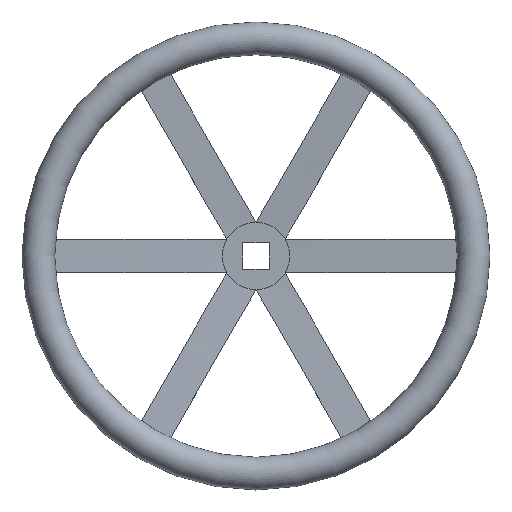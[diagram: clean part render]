
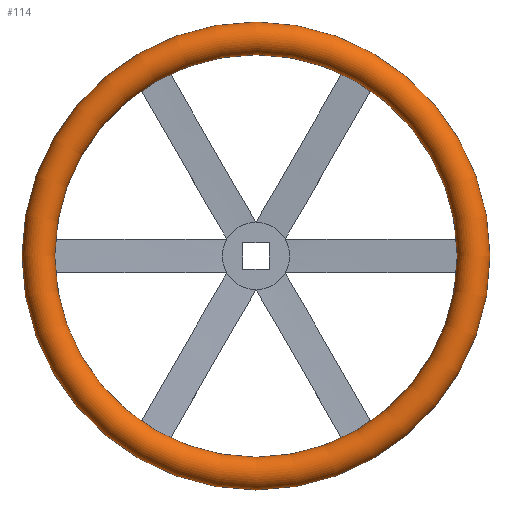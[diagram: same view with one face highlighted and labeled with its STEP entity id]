
A CAD part, top view. The second image highlights one B-rep face of the part: STEP entity #114.
In plain terms, the highlighted toroidal (fillet/blend) face has major radius 226 mm and minor radius 17 mm.
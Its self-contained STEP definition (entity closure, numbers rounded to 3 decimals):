
#114 = ADVANCED_FACE( '', ( #205, #206 ), #207, .T. );
#205 = FACE_OUTER_BOUND( '', #297, .T. );
#206 = FACE_OUTER_BOUND( '', #298, .T. );
#207 = TOROIDAL_SURFACE( '', #299, 226., 17. );
#297 = EDGE_LOOP( '', ( #601 ) );
#298 = EDGE_LOOP( '', ( #602 ) );
#299 = AXIS2_PLACEMENT_3D( '', #603, #604, #605 );
#601 = ORIENTED_EDGE( '', *, *, #698, .T. );
#602 = ORIENTED_EDGE( '', *, *, #663, .F. );
#603 = CARTESIAN_POINT( '', ( 0., 0., 38. ) );
#604 = DIRECTION( '', ( 0., 0., 1. ) );
#605 = DIRECTION( '', ( 1., 0., 0. ) );
#663 = EDGE_CURVE( '', #797, #797, #798, .T. );
#698 = EDGE_CURVE( '', #843, #843, #844, .T. );
#797 = VERTEX_POINT( '', #1091 );
#798 = CIRCLE( '', #1092, 209. );
#843 = VERTEX_POINT( '', #1235 );
#844 = CIRCLE( '', #1236, 243. );
#1091 = CARTESIAN_POINT( '', ( 209., 0., 38. ) );
#1092 = AXIS2_PLACEMENT_3D( '', #1322, #1323, #1324 );
#1235 = CARTESIAN_POINT( '', ( 243., 0., 38. ) );
#1236 = AXIS2_PLACEMENT_3D( '', #1381, #1382, #1383 );
#1322 = CARTESIAN_POINT( '', ( 0., 0., 38. ) );
#1323 = DIRECTION( '', ( 0., 0., 1. ) );
#1324 = DIRECTION( '', ( 1., 0., 0. ) );
#1381 = CARTESIAN_POINT( '', ( 0., 0., 38. ) );
#1382 = DIRECTION( '', ( 0., 0., 1. ) );
#1383 = DIRECTION( '', ( 1., 0., 0. ) );
